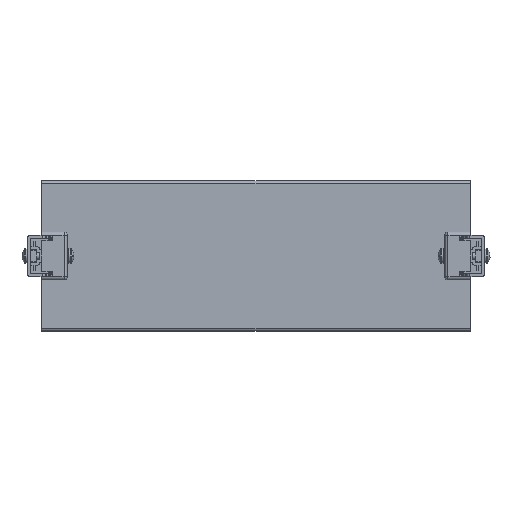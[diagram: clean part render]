
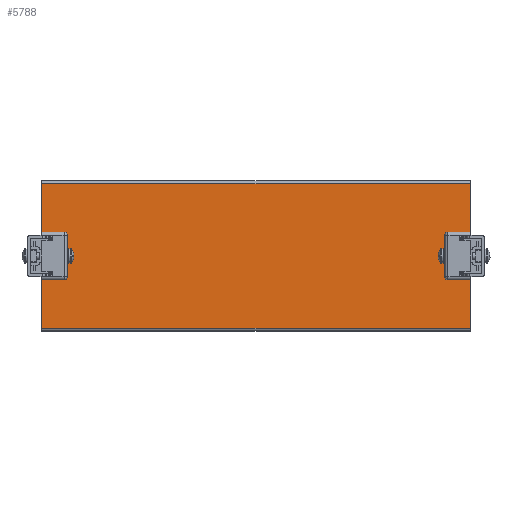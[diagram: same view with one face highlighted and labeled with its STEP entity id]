
A CAD part, front view. The second image highlights one B-rep face of the part: STEP entity #5788.
In plain terms, the highlighted planar face has unit normal (0, -1, 0).
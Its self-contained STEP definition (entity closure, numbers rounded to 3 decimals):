
#174=PLANE('',#12733);
#754=LINE('',#17937,#1760);
#755=LINE('',#17940,#1761);
#756=LINE('',#17942,#1762);
#757=LINE('',#17944,#1763);
#758=LINE('',#17948,#1764);
#759=LINE('',#17950,#1765);
#760=LINE('',#17952,#1766);
#761=LINE('',#17956,#1767);
#762=LINE('',#17958,#1768);
#763=LINE('',#17960,#1769);
#764=LINE('',#17962,#1770);
#765=LINE('',#17964,#1771);
#766=LINE('',#17966,#1772);
#767=LINE('',#17968,#1773);
#768=LINE('',#17972,#1774);
#769=LINE('',#17974,#1775);
#770=LINE('',#17976,#1776);
#771=LINE('',#17980,#1777);
#772=LINE('',#17982,#1778);
#773=LINE('',#17984,#1779);
#1760=VECTOR('',#14462,1.);
#1761=VECTOR('',#14463,1.);
#1762=VECTOR('',#14464,1.);
#1763=VECTOR('',#14465,1.);
#1764=VECTOR('',#14468,1.);
#1765=VECTOR('',#14469,1.);
#1766=VECTOR('',#14470,1.);
#1767=VECTOR('',#14473,1.);
#1768=VECTOR('',#14474,1.);
#1769=VECTOR('',#14475,1.);
#1770=VECTOR('',#14476,1.);
#1771=VECTOR('',#14477,1.);
#1772=VECTOR('',#14478,1.);
#1773=VECTOR('',#14479,1.);
#1774=VECTOR('',#14482,1.);
#1775=VECTOR('',#14483,1.);
#1776=VECTOR('',#14484,1.);
#1777=VECTOR('',#14487,1.);
#1778=VECTOR('',#14488,1.);
#1779=VECTOR('',#14489,1.);
#5788=ADVANCED_FACE('',(#6207),#174,.T.);
#6207=FACE_OUTER_BOUND('',#6598,.T.);
#6598=EDGE_LOOP('',(#7861,#7862,#7863,#7864,#7865,#7866,#7867,#7868,#7869,
#7870,#7871,#7872,#7873,#7874,#7875,#7876,#7877,#7878,#7879,#7880,#7881,
#7882,#7883,#7884));
#7861=ORIENTED_EDGE('',*,*,#10994,.T.);
#7862=ORIENTED_EDGE('',*,*,#10995,.T.);
#7863=ORIENTED_EDGE('',*,*,#10996,.T.);
#7864=ORIENTED_EDGE('',*,*,#10997,.T.);
#7865=ORIENTED_EDGE('',*,*,#10998,.T.);
#7866=ORIENTED_EDGE('',*,*,#10999,.T.);
#7867=ORIENTED_EDGE('',*,*,#11000,.T.);
#7868=ORIENTED_EDGE('',*,*,#11001,.T.);
#7869=ORIENTED_EDGE('',*,*,#11002,.T.);
#7870=ORIENTED_EDGE('',*,*,#11003,.F.);
#7871=ORIENTED_EDGE('',*,*,#11004,.T.);
#7872=ORIENTED_EDGE('',*,*,#11005,.T.);
#7873=ORIENTED_EDGE('',*,*,#11006,.T.);
#7874=ORIENTED_EDGE('',*,*,#11007,.F.);
#7875=ORIENTED_EDGE('',*,*,#11008,.T.);
#7876=ORIENTED_EDGE('',*,*,#11009,.T.);
#7877=ORIENTED_EDGE('',*,*,#11010,.T.);
#7878=ORIENTED_EDGE('',*,*,#11011,.T.);
#7879=ORIENTED_EDGE('',*,*,#11012,.F.);
#7880=ORIENTED_EDGE('',*,*,#11013,.T.);
#7881=ORIENTED_EDGE('',*,*,#11014,.T.);
#7882=ORIENTED_EDGE('',*,*,#11015,.F.);
#7883=ORIENTED_EDGE('',*,*,#11016,.T.);
#7884=ORIENTED_EDGE('',*,*,#11017,.F.);
#9590=VERTEX_POINT('',#17938);
#9591=VERTEX_POINT('',#17939);
#9592=VERTEX_POINT('',#17941);
#9593=VERTEX_POINT('',#17943);
#9594=VERTEX_POINT('',#17945);
#9595=VERTEX_POINT('',#17947);
#9596=VERTEX_POINT('',#17949);
#9597=VERTEX_POINT('',#17951);
#9598=VERTEX_POINT('',#17953);
#9599=VERTEX_POINT('',#17955);
#9600=VERTEX_POINT('',#17957);
#9601=VERTEX_POINT('',#17959);
#9602=VERTEX_POINT('',#17961);
#9603=VERTEX_POINT('',#17963);
#9604=VERTEX_POINT('',#17965);
#9605=VERTEX_POINT('',#17967);
#9606=VERTEX_POINT('',#17969);
#9607=VERTEX_POINT('',#17971);
#9608=VERTEX_POINT('',#17973);
#9609=VERTEX_POINT('',#17975);
#9610=VERTEX_POINT('',#17977);
#9611=VERTEX_POINT('',#17979);
#9612=VERTEX_POINT('',#17981);
#9613=VERTEX_POINT('',#17983);
#10994=EDGE_CURVE('',#9590,#9591,#754,.T.);
#10995=EDGE_CURVE('',#9591,#9592,#755,.T.);
#10996=EDGE_CURVE('',#9592,#9593,#756,.T.);
#10997=EDGE_CURVE('',#9593,#9594,#757,.T.);
#10998=EDGE_CURVE('',#9594,#9595,#12072,.T.);
#10999=EDGE_CURVE('',#9595,#9596,#758,.T.);
#11000=EDGE_CURVE('',#9596,#9597,#759,.T.);
#11001=EDGE_CURVE('',#9597,#9598,#760,.T.);
#11002=EDGE_CURVE('',#9598,#9599,#12073,.T.);
#11003=EDGE_CURVE('',#9600,#9599,#761,.T.);
#11004=EDGE_CURVE('',#9600,#9601,#762,.T.);
#11005=EDGE_CURVE('',#9601,#9602,#763,.T.);
#11006=EDGE_CURVE('',#9602,#9603,#764,.T.);
#11007=EDGE_CURVE('',#9604,#9603,#765,.T.);
#11008=EDGE_CURVE('',#9604,#9605,#766,.T.);
#11009=EDGE_CURVE('',#9605,#9606,#767,.T.);
#11010=EDGE_CURVE('',#9606,#9607,#12074,.T.);
#11011=EDGE_CURVE('',#9607,#9608,#768,.T.);
#11012=EDGE_CURVE('',#9609,#9608,#769,.T.);
#11013=EDGE_CURVE('',#9609,#9610,#770,.T.);
#11014=EDGE_CURVE('',#9610,#9611,#12075,.T.);
#11015=EDGE_CURVE('',#9612,#9611,#771,.T.);
#11016=EDGE_CURVE('',#9612,#9613,#772,.T.);
#11017=EDGE_CURVE('',#9590,#9613,#773,.T.);
#12072=CIRCLE('',#12729,1.6);
#12073=CIRCLE('',#12730,1.6);
#12074=CIRCLE('',#12731,1.6);
#12075=CIRCLE('',#12732,1.6);
#12729=AXIS2_PLACEMENT_3D('',#17946,#14466,#14467);
#12730=AXIS2_PLACEMENT_3D('',#17954,#14471,#14472);
#12731=AXIS2_PLACEMENT_3D('',#17970,#14480,#14481);
#12732=AXIS2_PLACEMENT_3D('',#17978,#14485,#14486);
#12733=AXIS2_PLACEMENT_3D('',#17985,#14490,#14491);
#14462=DIRECTION('',(-1.,0.,0.));
#14463=DIRECTION('',(0.,0.,-1.));
#14464=DIRECTION('',(1.,0.,0.));
#14465=DIRECTION('',(0.,0.,-1.));
#14466=DIRECTION('',(0.,1.,0.));
#14467=DIRECTION('',(0.,0.,-1.));
#14468=DIRECTION('',(-1.,0.,0.));
#14469=DIRECTION('',(0.,0.,-1.));
#14470=DIRECTION('',(1.,0.,0.));
#14471=DIRECTION('',(0.,1.,0.));
#14472=DIRECTION('',(0.,0.,-1.));
#14473=DIRECTION('',(0.,0.,1.));
#14474=DIRECTION('',(-1.,0.,0.));
#14475=DIRECTION('',(0.,0.,-1.));
#14476=DIRECTION('',(1.,0.,0.));
#14477=DIRECTION('',(0.,0.,-1.));
#14478=DIRECTION('',(-1.,0.,0.));
#14479=DIRECTION('',(0.,0.,1.));
#14480=DIRECTION('',(0.,1.,0.));
#14481=DIRECTION('',(0.,0.,-1.));
#14482=DIRECTION('',(1.,0.,0.));
#14483=DIRECTION('',(0.,0.,-1.));
#14484=DIRECTION('',(-1.,0.,0.));
#14485=DIRECTION('',(0.,1.,0.));
#14486=DIRECTION('',(0.,0.,-1.));
#14487=DIRECTION('',(0.,0.,-1.));
#14488=DIRECTION('',(1.,0.,0.));
#14489=DIRECTION('',(0.,0.,-1.));
#14490=DIRECTION('',(0.,-1.,0.));
#14491=DIRECTION('',(0.,0.,1.));
#17937=CARTESIAN_POINT('',(179.8,0.,60.5));
#17938=CARTESIAN_POINT('',(179.8,0.,60.5));
#17939=CARTESIAN_POINT('',(-179.8,0.,60.5));
#17940=CARTESIAN_POINT('',(-179.8,0.,60.5));
#17941=CARTESIAN_POINT('',(-179.8,0.,17.75));
#17942=CARTESIAN_POINT('',(-179.8,0.,17.75));
#17943=CARTESIAN_POINT('',(-171.4,0.,17.75));
#17944=CARTESIAN_POINT('',(-171.4,0.,60.51));
#17945=CARTESIAN_POINT('',(-171.4,0.,15.1));
#17946=CARTESIAN_POINT('',(-173.,0.,15.1));
#17947=CARTESIAN_POINT('',(-174.462,0.,14.45));
#17948=CARTESIAN_POINT('',(-174.462,0.,14.45));
#17949=CARTESIAN_POINT('',(-179.8,0.,14.45));
#17950=CARTESIAN_POINT('',(-179.8,0.,14.45));
#17951=CARTESIAN_POINT('',(-179.8,0.,-14.45));
#17952=CARTESIAN_POINT('',(-174.462,0.,-14.45));
#17953=CARTESIAN_POINT('',(-174.462,0.,-14.45));
#17954=CARTESIAN_POINT('',(-173.,0.,-15.1));
#17955=CARTESIAN_POINT('',(-171.4,0.,-15.1));
#17956=CARTESIAN_POINT('',(-171.4,0.,-17.75));
#17957=CARTESIAN_POINT('',(-171.4,0.,-17.75));
#17958=CARTESIAN_POINT('',(-179.8,0.,-17.75));
#17959=CARTESIAN_POINT('',(-179.8,0.,-17.75));
#17960=CARTESIAN_POINT('',(-179.8,0.,-17.75));
#17961=CARTESIAN_POINT('',(-179.8,0.,-60.5));
#17962=CARTESIAN_POINT('',(0.,0.,-60.5));
#17963=CARTESIAN_POINT('',(179.8,0.,-60.5));
#17964=CARTESIAN_POINT('',(179.8,0.,-17.75));
#17965=CARTESIAN_POINT('',(179.8,0.,-17.75));
#17966=CARTESIAN_POINT('',(-179.81,0.,-17.75));
#17967=CARTESIAN_POINT('',(171.4,0.,-17.75));
#17968=CARTESIAN_POINT('',(171.4,0.,-17.75));
#17969=CARTESIAN_POINT('',(171.4,0.,-15.1));
#17970=CARTESIAN_POINT('',(173.,0.,-15.1));
#17971=CARTESIAN_POINT('',(174.462,0.,-14.45));
#17972=CARTESIAN_POINT('',(-179.81,0.,-14.45));
#17973=CARTESIAN_POINT('',(179.8,0.,-14.45));
#17974=CARTESIAN_POINT('',(179.8,0.,14.45));
#17975=CARTESIAN_POINT('',(179.8,0.,14.45));
#17976=CARTESIAN_POINT('',(-171.4,0.,14.45));
#17977=CARTESIAN_POINT('',(174.462,0.,14.45));
#17978=CARTESIAN_POINT('',(173.,0.,15.1));
#17979=CARTESIAN_POINT('',(171.4,0.,15.1));
#17980=CARTESIAN_POINT('',(171.4,0.,-17.75));
#17981=CARTESIAN_POINT('',(171.4,0.,17.75));
#17982=CARTESIAN_POINT('',(-179.8,0.,17.75));
#17983=CARTESIAN_POINT('',(179.8,0.,17.75));
#17984=CARTESIAN_POINT('',(179.8,0.,60.5));
#17985=CARTESIAN_POINT('',(-179.81,0.,60.51));
